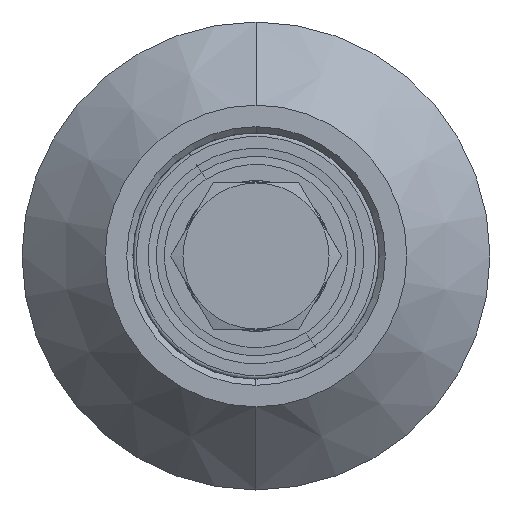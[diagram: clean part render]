
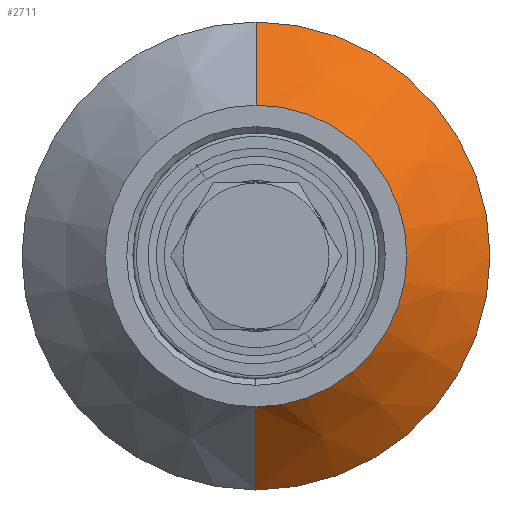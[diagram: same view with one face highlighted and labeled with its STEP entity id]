
A CAD part, left-side view. The second image highlights one B-rep face of the part: STEP entity #2711.
In plain terms, the highlighted conical face has half-angle 45 degrees and reference radius 38 mm.
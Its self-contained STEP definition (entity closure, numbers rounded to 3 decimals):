
#377 = EDGE_LOOP ( 'NONE', ( #808, #862, #846, #874 ) ) ;
#451 = VERTEX_POINT ( 'NONE', #2452 ) ;
#456 = VERTEX_POINT ( 'NONE', #2470 ) ;
#460 = VERTEX_POINT ( 'NONE', #2395 ) ;
#462 = VERTEX_POINT ( 'NONE', #2389 ) ;
#720 = CIRCLE ( 'NONE', #1534, 38. ) ;
#733 = VECTOR ( 'NONE', #2765, 1000. ) ;
#734 = LINE ( 'NONE', #2763, #733 ) ;
#735 = VECTOR ( 'NONE', #2754, 1000. ) ;
#736 = LINE ( 'NONE', #2758, #735 ) ;
#737 = CIRCLE ( 'NONE', #1529, 24.5 ) ;
#808 = ORIENTED_EDGE ( 'NONE', *, *, #4055, .T. ) ;
#846 = ORIENTED_EDGE ( 'NONE', *, *, #4067, .F. ) ;
#862 = ORIENTED_EDGE ( 'NONE', *, *, #4054, .T. ) ;
#874 = ORIENTED_EDGE ( 'NONE', *, *, #4053, .F. ) ;
#1337 = AXIS2_PLACEMENT_3D ( 'NONE', #2265, #2270, #2273 ) ;
#1529 = AXIS2_PLACEMENT_3D ( 'NONE', #2767, #2768, #2769 ) ;
#1534 = AXIS2_PLACEMENT_3D ( 'NONE', #2795, #2796, #2797 ) ;
#2265 = CARTESIAN_POINT ( 'NONE',  ( 17.5, 0., 0. ) ) ;
#2270 = DIRECTION ( 'NONE',  ( 1., 0., 0. ) ) ;
#2273 = DIRECTION ( 'NONE',  ( 0., 0., 1. ) ) ;
#2389 = CARTESIAN_POINT ( 'NONE',  ( 17.5, 0., -38. ) ) ;
#2395 = CARTESIAN_POINT ( 'NONE',  ( 17.5, 0., 38. ) ) ;
#2452 = CARTESIAN_POINT ( 'NONE',  ( 4., 0., 24.5 ) ) ;
#2470 = CARTESIAN_POINT ( 'NONE',  ( 4., 0., -24.5 ) ) ;
#2711 = ADVANCED_FACE ( 'NONE', ( #4845 ), #4823, .T. ) ;
#2754 = DIRECTION ( 'NONE',  ( 0.707, 0., 0.707 ) ) ;
#2758 = CARTESIAN_POINT ( 'NONE',  ( 17.5, 0., 38. ) ) ;
#2763 = CARTESIAN_POINT ( 'NONE',  ( 17.5, 0., -38. ) ) ;
#2765 = DIRECTION ( 'NONE',  ( 0.707, 0., -0.707 ) ) ;
#2767 = CARTESIAN_POINT ( 'NONE',  ( 4., 0., 0. ) ) ;
#2768 = DIRECTION ( 'NONE',  ( 1., 0., 0. ) ) ;
#2769 = DIRECTION ( 'NONE',  ( 0., 0., 1. ) ) ;
#2795 = CARTESIAN_POINT ( 'NONE',  ( 17.5, 0., 0. ) ) ;
#2796 = DIRECTION ( 'NONE',  ( 1., 0., 0. ) ) ;
#2797 = DIRECTION ( 'NONE',  ( 0., 0., -1. ) ) ;
#4053 = EDGE_CURVE ( 'NONE', #451, #460, #736, .T. ) ;
#4054 = EDGE_CURVE ( 'NONE', #456, #462, #734, .T. ) ;
#4055 = EDGE_CURVE ( 'NONE', #451, #456, #737, .T. ) ;
#4067 = EDGE_CURVE ( 'NONE', #460, #462, #720, .T. ) ;
#4823 = CONICAL_SURFACE ( 'NONE', #1337, 38., 0.785 ) ;
#4845 = FACE_OUTER_BOUND ( 'NONE', #377, .T. ) ;
